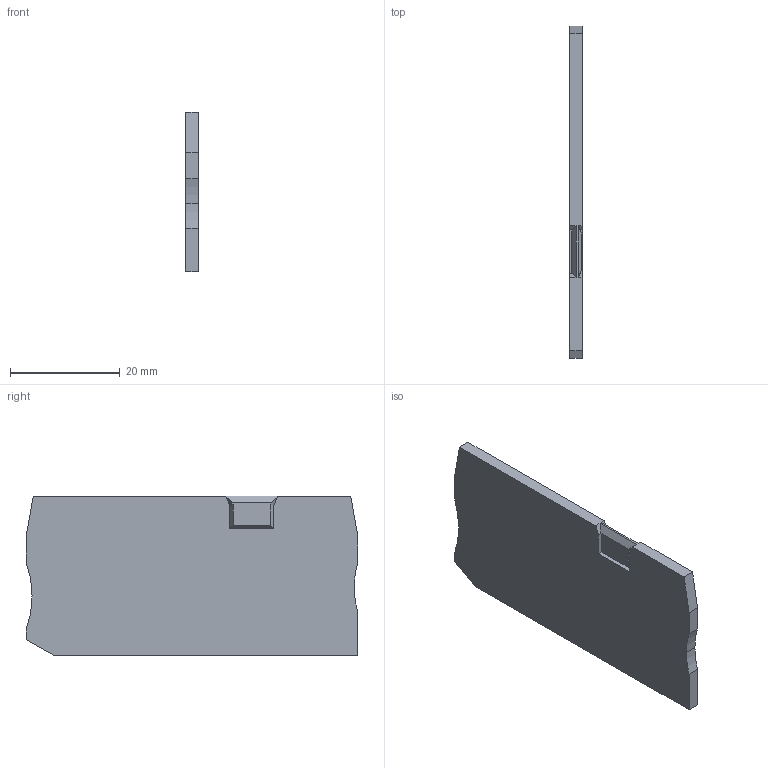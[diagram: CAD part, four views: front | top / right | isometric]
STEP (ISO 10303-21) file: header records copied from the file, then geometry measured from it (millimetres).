
FILE_DESCRIPTION(('TFLEX Exchange Step'),'2;1');
FILE_NAME('14000086_К-КНБ_2,5-3-С.stp', '2025-06-24T11:18:27+03:00',('MVarava'),('Unknown organisation'),'TFLEX Exchange 2023.0','T-FLEX CAD','Unknown authorisation');
FILE_SCHEMA( ('AUTOMOTIVE_DESIGN { 1 0 10303 214 1 1 1 1 }') );
Length unit declared in the file: millimetre
Products named in the file (1): Nodes
Bounding box: 2.2 x 60.6 x 29.1 mm (x, y, z)
Volume: 3774.5 mm3; surface area: 3897.4 mm2
Topology: 1 solids, 1 shells, 260 faces, 745 edges, 494 vertices
Faces by surface type: cylinder 166, plane 94
Entity records: 8661 total; most frequent: CARTESIAN_POINT 1650, DIRECTION 1523, ORIENTED_EDGE 1490, EDGE_CURVE 745, AXIS2_PLACEMENT_3D 589, VERTEX_POINT 494, VECTOR 345, LINE 345
